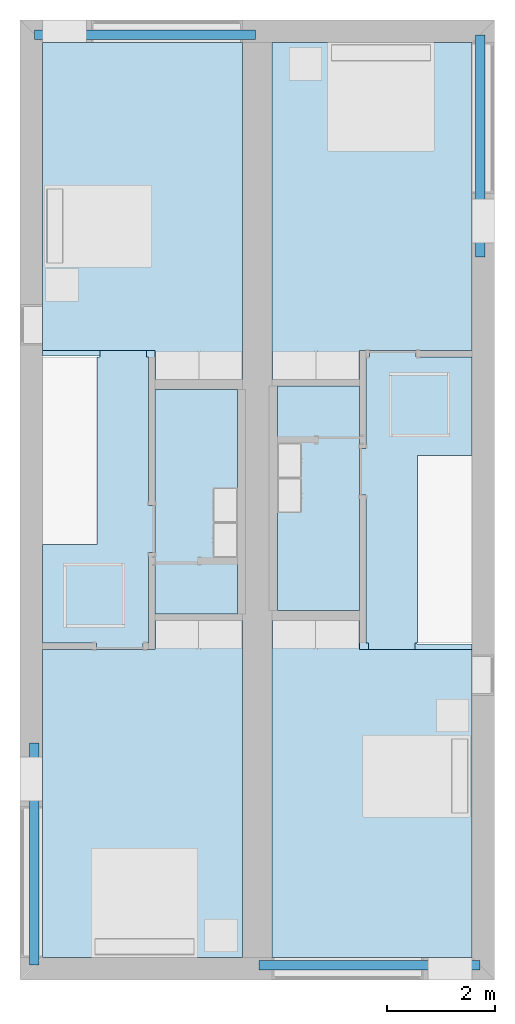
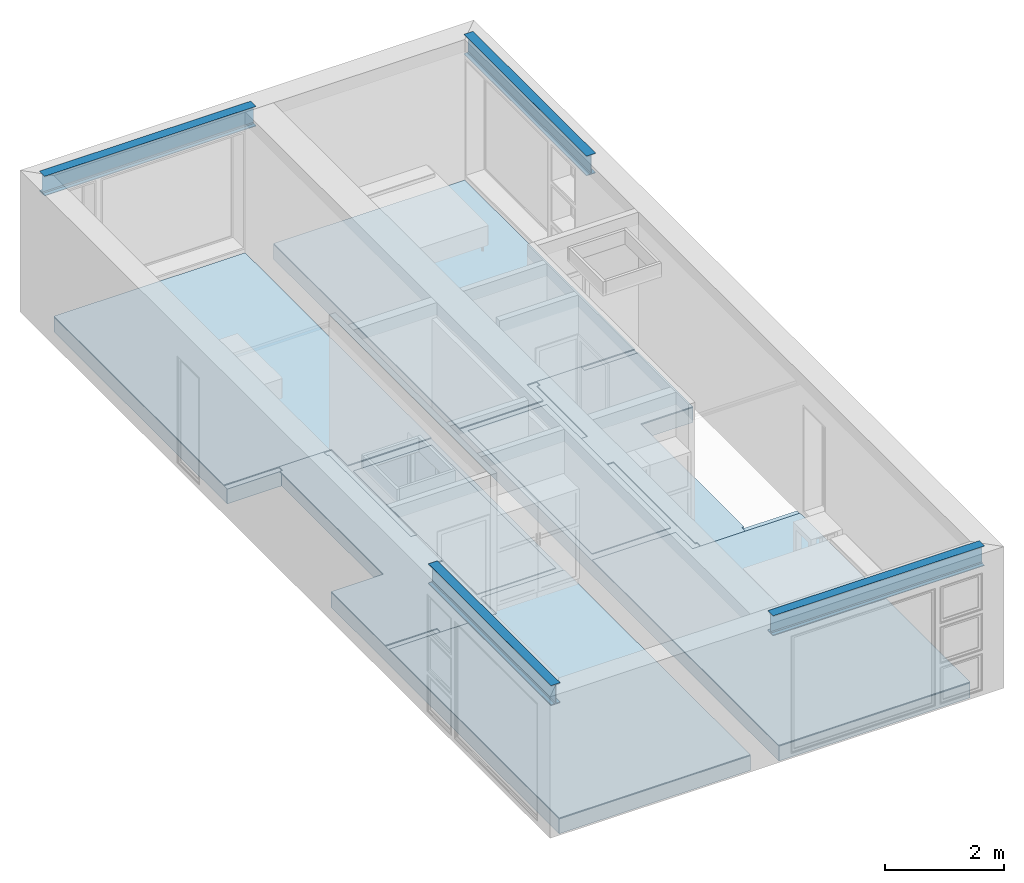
# One storey, part 1 of 16: 10 slabs, 4 beams.
"""IFC4 building model written with IfcOpenShell, lengths in metres."""

from ifc_helpers import new_model, entity, si_unit, converted_unit, frame, frame_2d, origin, place, context, project, spatial, polyline, circle_curve, parameter, trimmed, segment, composite_curve, rectangle, outline, extrude, material, layer, layer_set, layer_usage, element, save


model = new_model("IFC4")

# Units and contexts
model_context = context("Model", 3, precision=1e-09, world=origin())
plan_context = context("Plan", 3, precision=1e-09, world=origin())
ifc_project = project(units=[si_unit("LENGTHUNIT", "METRE"), si_unit("AREAUNIT", "SQUARE_METRE"), si_unit("VOLUMEUNIT", "CUBIC_METRE"), converted_unit("PLANEANGLEUNIT", "DEGREE", entity("IfcRatioMeasure", 0.01745329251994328), si_unit("PLANEANGLEUNIT", "RADIAN"), dimensions=[0, 0, 0, 0, 0, 0, 0]), si_unit("TIMEUNIT", "SECOND")], contexts=[model_context, plan_context])

# Site, building, storey
site_placement = place(None, origin())
site = spatial("IfcSite", under=ifc_project, at=site_placement, Name="Default", CompositionType="ELEMENT")
building_placement = place(site_placement, origin())
building = spatial("IfcBuilding", under=site, at=building_placement, CompositionType="ELEMENT")
storey_placement = place(building_placement, frame((0.0, 0.0, 3.100000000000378)))
storey = spatial("IfcBuildingStorey", under=building, at=storey_placement, Name="Level 2", CompositionType="ELEMENT", Elevation=3.100000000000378)

# Beams
ifc_material_1 = material(Name="Metal - Steel - 345 MPa")
beam_1_placement = place(storey_placement, frame((0.2666128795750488, -13.40172007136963, 2.89999999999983), z_axis=(0.0, 0.0, 1.0), x_axis=(-1.0, 0.0, 0.0)))
element("IfcBeam", 1, at=beam_1_placement, inside=storey, material=ifc_material_1, Name="M_W-Wide Flange:W410X60:W410X60", ObjectType="M_W-Wide Flange:W410X60", context=model_context, shape_type="SweptSolid", body=[
    extrude(outline(composite_curve([segment(polyline([(0.1906999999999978, -0.08900000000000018), (0.2034999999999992, -0.08900000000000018)]), True, "CONTINUOUS"), segment(polyline([(0.2034999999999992, -0.08900000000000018), (0.2034999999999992, 0.08900000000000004)]), True, "CONTINUOUS"), segment(polyline([(0.2034999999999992, 0.08900000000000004), (0.1906999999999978, 0.08900000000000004)]), True, "CONTINUOUS"), segment(polyline([(0.1906999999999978, 0.08900000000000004), (0.1906999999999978, 0.02104999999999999)]), True, "CONTINUOUS"), segment(trimmed(circle_curve(frame_2d((0.1734999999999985, 0.02104999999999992), x_axis=(1.0, 0.0)), 0.0172), [parameter(92.33515524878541)], [parameter(92.33515524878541)], True, "PARAMETER"), False, "CONTINUOUS"), segment(polyline([(0.1734999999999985, 0.003849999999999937), (-0.1735000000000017, 0.003849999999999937)]), True, "CONTINUOUS"), segment(trimmed(circle_curve(frame_2d((-0.1735000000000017, 0.02104999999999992), x_axis=(0.0, -1.0)), 0.0172), [parameter(92.33515524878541)], [parameter(92.33515524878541)], True, "PARAMETER"), False, "CONTINUOUS"), segment(polyline([(-0.1907000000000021, 0.02104999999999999), (-0.1907000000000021, 0.08900000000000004)]), True, "CONTINUOUS"), segment(polyline([(-0.1907000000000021, 0.08900000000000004), (-0.2035000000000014, 0.08900000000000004)]), True, "CONTINUOUS"), segment(polyline([(-0.2035000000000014, 0.08900000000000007), (-0.2035000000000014, -0.08899999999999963)]), True, "CONTINUOUS"), segment(polyline([(-0.2035000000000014, -0.08899999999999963), (-0.1907000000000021, -0.08899999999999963)]), True, "CONTINUOUS"), segment(polyline([(-0.1907000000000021, -0.08899999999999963), (-0.1907000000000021, -0.02105000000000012)]), True, "CONTINUOUS"), segment(trimmed(circle_curve(frame_2d((-0.1735000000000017, -0.02105000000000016), x_axis=(-1.0, 0.0)), 0.0172), [parameter(92.33515524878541)], [parameter(92.33515524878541)], True, "PARAMETER"), False, "CONTINUOUS"), segment(polyline([(-0.1735000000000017, -0.00385000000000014), (0.1734999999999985, -0.00385000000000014)]), True, "CONTINUOUS"), segment(trimmed(circle_curve(frame_2d((0.1734999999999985, -0.02105000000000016), x_axis=(0.0, 1.0)), 0.0172), [parameter(92.33515524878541)], [parameter(92.33515524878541)], True, "PARAMETER"), False, "CONTINUOUS"), segment(polyline([(0.1906999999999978, -0.02105000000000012), (0.1906999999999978, -0.08900000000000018)]), True, "CONTINUOUS")], self_intersect=False)), frame((0.0, 4.121279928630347, -0.2035000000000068), z_axis=(0.0, -1.0, 0.0), x_axis=(0.0, 0.0, -1.0)), (0.0, 0.0, 1.0), 4.121279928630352),
])
beam_2_placement = place(storey_placement, frame((4.428954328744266, -17.52876686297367, 2.89999999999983), z_axis=(0.0, 0.0, 1.0), x_axis=(0.0, -1.0, 0.0)))
element("IfcBeam", 2, at=beam_2_placement, inside=storey, material=ifc_material_1, Name="M_W-Wide Flange:W410X60:W410X60", ObjectType="M_W-Wide Flange:W410X60", context=model_context, shape_type="SweptSolid", body=[
    extrude(outline(composite_curve([segment(polyline([(-0.08900000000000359, -0.1907), (-0.08900000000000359, -0.2035000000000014)]), True, "CONTINUOUS"), segment(polyline([(-0.08900000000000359, -0.2035000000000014), (0.0889999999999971, -0.2035000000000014)]), True, "CONTINUOUS"), segment(polyline([(0.0889999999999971, -0.2035000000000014), (0.0889999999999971, -0.1907)]), True, "CONTINUOUS"), segment(polyline([(0.0889999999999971, -0.1907), (0.02104999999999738, -0.1907)]), True, "CONTINUOUS"), segment(trimmed(circle_curve(frame_2d((0.02104999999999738, -0.1735000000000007), x_axis=(0.0, -1.0)), 0.0172), [parameter(92.33515524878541)], [parameter(92.33515524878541)], True, "PARAMETER"), False, "CONTINUOUS"), segment(polyline([(0.003849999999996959, -0.1735000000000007), (0.003849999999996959, 0.1734999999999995)]), True, "CONTINUOUS"), segment(trimmed(circle_curve(frame_2d((0.02104999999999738, 0.1734999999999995), x_axis=(-1.0, 0.0)), 0.0172), [parameter(92.33515524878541)], [parameter(92.33515524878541)], True, "PARAMETER"), False, "CONTINUOUS"), segment(polyline([(0.02104999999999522, 0.1907), (0.0889999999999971, 0.1907)]), True, "CONTINUOUS"), segment(polyline([(0.0889999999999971, 0.1907), (0.0889999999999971, 0.2034999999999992)]), True, "CONTINUOUS"), segment(polyline([(0.0889999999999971, 0.2034999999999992), (-0.08900000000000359, 0.2034999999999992)]), True, "CONTINUOUS"), segment(polyline([(-0.08900000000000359, 0.2034999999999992), (-0.08900000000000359, 0.1907)]), True, "CONTINUOUS"), segment(polyline([(-0.08900000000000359, 0.1907), (-0.02105000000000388, 0.1907)]), True, "CONTINUOUS"), segment(trimmed(circle_curve(frame_2d((-0.02105000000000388, 0.1734999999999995), x_axis=(0.0, 1.0)), 0.0172), [parameter(92.33515524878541)], [parameter(92.33515524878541)], True, "PARAMETER"), False, "CONTINUOUS"), segment(polyline([(-0.003850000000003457, 0.1734999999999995), (-0.003850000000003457, -0.1735000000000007)]), True, "CONTINUOUS"), segment(trimmed(circle_curve(frame_2d((-0.02105000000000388, -0.1735000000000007), x_axis=(1.0, 0.0)), 0.0172), [parameter(92.33515524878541)], [parameter(92.33515524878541)], True, "PARAMETER"), False, "CONTINUOUS"), segment(polyline([(-0.02105000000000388, -0.1907), (-0.08900000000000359, -0.1907)]), True, "CONTINUOUS")], self_intersect=False)), frame((0.0, 0.0, -0.2035000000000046), z_axis=(0.0, -1.0, 0.0), x_axis=(1.0, 0.0, 0.0)), (0.0, 0.0, -1.0), 4.100000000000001),
])
beam_3_placement = place(storey_placement, frame((8.533387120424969, -4.398279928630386, 2.89999999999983)))
element("IfcBeam", 3, at=beam_3_placement, inside=storey, material=ifc_material_1, Name="M_W-Wide Flange:W410X60:W410X60", ObjectType="M_W-Wide Flange:W410X60", context=model_context, shape_type="SweptSolid", body=[
    extrude(outline(composite_curve([segment(polyline([(-0.08900000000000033, -0.1907), (-0.08900000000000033, -0.2035000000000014)]), True, "CONTINUOUS"), segment(polyline([(-0.08900000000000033, -0.2035000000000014), (0.08899999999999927, -0.2035000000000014)]), True, "CONTINUOUS"), segment(polyline([(0.08899999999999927, -0.2035000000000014), (0.08899999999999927, -0.1907)]), True, "CONTINUOUS"), segment(polyline([(0.08899999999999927, -0.1907), (0.02104999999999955, -0.1907)]), True, "CONTINUOUS"), segment(trimmed(circle_curve(frame_2d((0.02104999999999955, -0.1735000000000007), x_axis=(0.0, -1.0)), 0.0172), [parameter(92.33515524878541)], [parameter(92.33515524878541)], True, "PARAMETER"), False, "CONTINUOUS"), segment(polyline([(0.003849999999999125, -0.1735000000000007), (0.003849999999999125, 0.1734999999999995)]), True, "CONTINUOUS"), segment(trimmed(circle_curve(frame_2d((0.02104999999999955, 0.1734999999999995), x_axis=(-1.0, 0.0)), 0.0172), [parameter(92.33515524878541)], [parameter(92.33515524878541)], True, "PARAMETER"), False, "CONTINUOUS"), segment(polyline([(0.02104999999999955, 0.1907), (0.08899999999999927, 0.1907)]), True, "CONTINUOUS"), segment(polyline([(0.08899999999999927, 0.1907), (0.08899999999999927, 0.2034999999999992)]), True, "CONTINUOUS"), segment(polyline([(0.08899999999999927, 0.2034999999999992), (-0.08900000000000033, 0.2034999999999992)]), True, "CONTINUOUS"), segment(polyline([(-0.08900000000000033, 0.2034999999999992), (-0.08900000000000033, 0.1907)]), True, "CONTINUOUS"), segment(polyline([(-0.08900000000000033, 0.1907), (-0.02105000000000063, 0.1907)]), True, "CONTINUOUS"), segment(trimmed(circle_curve(frame_2d((-0.02105000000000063, 0.1734999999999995), x_axis=(0.0, 1.0)), 0.0172), [parameter(92.33515524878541)], [parameter(92.33515524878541)], True, "PARAMETER"), False, "CONTINUOUS"), segment(polyline([(-0.003850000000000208, 0.1734999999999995), (-0.003850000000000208, -0.1735000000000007)]), True, "CONTINUOUS"), segment(trimmed(circle_curve(frame_2d((-0.02105000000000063, -0.1735000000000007), x_axis=(1.0, 0.0)), 0.0172), [parameter(92.33515524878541)], [parameter(92.33515524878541)], True, "PARAMETER"), False, "CONTINUOUS"), segment(polyline([(-0.02105000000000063, -0.1907), (-0.08900000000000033, -0.1907)]), True, "CONTINUOUS")], self_intersect=False)), frame((0.0, 0.0, -0.2035000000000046), z_axis=(0.0, -1.0, 0.0), x_axis=(1.0, 0.0, 0.0)), (0.0, 0.0, -1.0), 4.121279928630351),
])
beam_4_placement = place(storey_placement, frame((4.371045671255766, -0.2712331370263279, 2.89999999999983), z_axis=(0.0, 0.0, 1.0), x_axis=(0.0, 1.0, 0.0)))
element("IfcBeam", 4, at=beam_4_placement, inside=storey, material=ifc_material_1, Name="M_W-Wide Flange:W410X60:W410X60", ObjectType="M_W-Wide Flange:W410X60", context=model_context, shape_type="SweptSolid", body=[
    extrude(outline(composite_curve([segment(polyline([(0.1906999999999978, -0.08900000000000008), (0.2034999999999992, -0.08900000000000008)]), True, "CONTINUOUS"), segment(polyline([(0.2034999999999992, -0.08900000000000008), (0.2034999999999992, 0.08900000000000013)]), True, "CONTINUOUS"), segment(polyline([(0.2034999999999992, 0.08900000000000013), (0.1906999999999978, 0.08900000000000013)]), True, "CONTINUOUS"), segment(polyline([(0.1906999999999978, 0.08900000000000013), (0.1906999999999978, 0.02105000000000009)]), True, "CONTINUOUS"), segment(trimmed(circle_curve(frame_2d((0.1734999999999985, 0.02105000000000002), x_axis=(1.0, 0.0)), 0.0172), [parameter(92.33515524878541)], [parameter(92.33515524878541)], True, "PARAMETER"), False, "CONTINUOUS"), segment(polyline([(0.1734999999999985, 0.003850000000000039), (-0.1735000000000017, 0.003850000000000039)]), True, "CONTINUOUS"), segment(trimmed(circle_curve(frame_2d((-0.1735000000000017, 0.02105000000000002), x_axis=(0.0, -1.0)), 0.0172), [parameter(92.33515524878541)], [parameter(92.33515524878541)], True, "PARAMETER"), False, "CONTINUOUS"), segment(polyline([(-0.1907000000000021, 0.02105000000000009), (-0.1907000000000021, 0.08900000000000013)]), True, "CONTINUOUS"), segment(polyline([(-0.1907000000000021, 0.08900000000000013), (-0.2035000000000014, 0.08900000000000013)]), True, "CONTINUOUS"), segment(polyline([(-0.2035000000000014, 0.08900000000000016), (-0.2035000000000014, -0.08899999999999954)]), True, "CONTINUOUS"), segment(polyline([(-0.2035000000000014, -0.08899999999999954), (-0.1907000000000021, -0.08899999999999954)]), True, "CONTINUOUS"), segment(polyline([(-0.1907000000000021, -0.08899999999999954), (-0.1907000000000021, -0.02105000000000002)]), True, "CONTINUOUS"), segment(trimmed(circle_curve(frame_2d((-0.1735000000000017, -0.02105000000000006), x_axis=(-1.0, 0.0)), 0.0172), [parameter(92.33515524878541)], [parameter(92.33515524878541)], True, "PARAMETER"), False, "CONTINUOUS"), segment(polyline([(-0.1735000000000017, -0.003850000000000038), (0.1734999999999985, -0.003850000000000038)]), True, "CONTINUOUS"), segment(trimmed(circle_curve(frame_2d((0.1734999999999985, -0.02105000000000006), x_axis=(0.0, 1.0)), 0.0172), [parameter(92.33515524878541)], [parameter(92.33515524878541)], True, "PARAMETER"), False, "CONTINUOUS"), segment(polyline([(0.1906999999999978, -0.02105000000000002), (0.1906999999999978, -0.08900000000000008)]), True, "CONTINUOUS")], self_intersect=False)), frame((0.0, 4.1, -0.2035000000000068), z_axis=(0.0, -1.0, 0.0), x_axis=(0.0, 0.0, -1.0)), (0.0, 0.0, 1.0), 4.100000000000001),
])

# Slabs
ifc_material_2 = material(Name="Wood - Sheathing - plywood")
ifc_layer_1 = layer(ifc_material_2, 0.019)
ifc_material_3 = material(Name="Wood - Dimensional Lumber")
ifc_layer_2 = layer(ifc_material_3, 0.286)
ifc_layer_set_1 = layer_set([ifc_layer_1, ifc_layer_2], Name="Floor:Residential - Wood Joist with Subflooring")
ifc_layer_usage_1 = layer_usage(ifc_layer_set_1, "AXIS3", "POSITIVE", 0.0)
slab_1_placement = place(storey_placement, frame((0.4169999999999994, -17.38299999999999, -0.3050000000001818)))
element("IfcSlab", 5, at=slab_1_placement, inside=storey, material=ifc_layer_usage_1, Name="Floor:Residential - Wood Joist with Subflooring", ObjectType="Floor:Residential - Wood Joist with Subflooring", PredefinedType="FLOOR", context=model_context, shape_type="SweptSolid", body=[
    extrude(outline(polyline([(-1.854000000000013, 8.48299999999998), (-1.853999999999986, -8.482999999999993), (1.853999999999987, -8.482999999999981), (1.853999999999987, -0.8250000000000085), (0.799599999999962, -0.8250000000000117), (0.7995999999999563, 2.665999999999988), (1.853999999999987, 2.665999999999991), (1.853999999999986, 8.482999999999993), (-1.854000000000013, 8.48299999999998)])), frame((1.853999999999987, 8.482999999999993, 0.305), z_axis=(0.0, 0.0, -1.0), x_axis=(-1.0, 0.0, 0.0)), (0.0, 0.0, 1.0), 0.305),
])
ifc_material_4 = material(Name="Ceramic Tile")
ifc_layer_3 = layer(ifc_material_4, 0.01)
ifc_material_5 = material(Name="Masonry - Grout")
ifc_layer_4 = layer(ifc_material_5, 0.003)
ifc_layer_set_2 = layer_set([ifc_layer_3, ifc_layer_4], Name="Floor:Finish Floor - Ceramic Tile")
ifc_layer_usage_2 = layer_usage(ifc_layer_set_2, "AXIS3", "POSITIVE", 0.0)
slab_2_placement = place(storey_placement, frame((2.505999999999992, -11.01, 0.0)))
element("IfcSlab", 6, at=slab_2_placement, inside=storey, material=ifc_layer_usage_2, Name="Floor:Finish Floor - Ceramic Tile", ObjectType="Floor:Finish Floor - Ceramic Tile", PredefinedType="FLOOR", context=model_context, shape_type="SweptSolid", body=[
    extrude(rectangle(XDim=4.16, YDim=1.523999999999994, at=frame_2d((0.0, 0.0), x_axis=(0.0, -1.0))), frame((0.7619999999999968, 2.080000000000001, 0.01299999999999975), z_axis=(0.0, 0.0, -1.0), x_axis=(-1.0, 0.0, 0.0)), (0.0, 0.0, 1.0), 0.01299999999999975),
])
ifc_material_6 = material(Name="Wood - Flooring")
ifc_layer_5 = layer(ifc_material_6, 0.016)
ifc_material_7 = material(Name="Insulation / Thermal Barriers - Semi-rigid insulation")
ifc_layer_6 = layer(ifc_material_7, 0.003)
ifc_layer_set_3 = layer_set([ifc_layer_5, ifc_layer_6], Name="Floor:Finish Floor - Wood")
ifc_layer_usage_3 = layer_usage(ifc_layer_set_3, "AXIS3", "POSITIVE", 0.0)
slab_3_placement = place(storey_placement, frame((0.4169999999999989, -6.666000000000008, 0.0)))
element("IfcSlab", 7, at=slab_3_placement, inside=storey, material=ifc_layer_usage_3, Name="Floor:Finish Floor - Wood", ObjectType="Floor:Finish Floor - Wood", PredefinedType="FLOOR", context=model_context, shape_type="SweptSolid", body=[
    extrude(outline(polyline([(1.853999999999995, 3.124500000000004), (-1.854000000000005, 3.124499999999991), (-1.853999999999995, -3.124500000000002), (-0.235000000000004, -3.124499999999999), (-0.235000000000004, -2.584499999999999), (1.853999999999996, -2.584499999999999), (1.853999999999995, 3.124500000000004)])), frame((1.853999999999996, 3.124500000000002, 0.01900000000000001), z_axis=(0.0, 0.0, -1.0), x_axis=(-1.0, 0.0, 0.0)), (0.0, 0.0, 1.0), 0.01900000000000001),
])
ifc_layer_usage_4 = layer_usage(ifc_layer_set_3, "AXIS3", "POSITIVE", 0.0)
slab_4_placement = place(storey_placement, frame((0.4169999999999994, -17.38299999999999, 0.0)))
element("IfcSlab", 8, at=slab_4_placement, inside=storey, material=ifc_layer_usage_4, Name="Floor:Finish Floor - Wood", ObjectType="Floor:Finish Floor - Wood", PredefinedType="FLOOR", context=model_context, shape_type="SweptSolid", body=[
    extrude(outline(polyline([(-1.853999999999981, -3.124499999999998), (1.853999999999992, -3.124499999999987), (1.853999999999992, 2.584499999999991), (-0.2350000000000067, 2.584499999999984), (-0.2350000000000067, 3.124499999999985), (-1.854000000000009, 3.124499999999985), (-1.853999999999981, -3.124499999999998)])), frame((1.853999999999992, 3.124499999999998, 0.01900000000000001), z_axis=(0.0, 0.0, -1.0), x_axis=(-1.0, 0.0, 0.0)), (0.0, 0.0, 1.0), 0.01900000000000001),
])
ifc_layer_usage_5 = layer_usage(ifc_layer_set_1, "AXIS3", "POSITIVE", 0.0)
slab_5_placement = place(storey_placement, frame((4.674999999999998, -17.383, -0.3050000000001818)))
element("IfcSlab", 9, at=slab_5_placement, inside=storey, material=ifc_layer_usage_5, Name="Floor:Residential - Wood Joist with Subflooring", ObjectType="Floor:Residential - Wood Joist with Subflooring", PredefinedType="FLOOR", context=model_context, shape_type="SweptSolid", body=[
    extrude(outline(polyline([(-1.854000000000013, 8.48299999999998), (-1.854000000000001, 0.8250000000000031), (-0.829600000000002, 0.8250000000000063), (-0.8295999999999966, -2.665999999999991), (-1.853999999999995, -2.665999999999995), (-1.853999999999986, -8.482999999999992), (1.853999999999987, -8.482999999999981), (1.853999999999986, 8.482999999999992), (-1.854000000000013, 8.48299999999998)])), frame((1.853999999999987, 8.482999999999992, 0.305), z_axis=(0.0, 0.0, -1.0), x_axis=(-1.0, 0.0, 0.0)), (0.0, 0.0, 1.0), 0.305),
])
ifc_layer_usage_6 = layer_usage(ifc_layer_set_2, "AXIS3", "POSITIVE", 0.0)
slab_6_placement = place(storey_placement, frame((4.769999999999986, -10.95000000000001, 0.0)))
element("IfcSlab", 10, at=slab_6_placement, inside=storey, material=ifc_layer_usage_6, Name="Floor:Finish Floor - Ceramic Tile", ObjectType="Floor:Finish Floor - Ceramic Tile", PredefinedType="FLOOR", context=model_context, shape_type="SweptSolid", body=[
    extrude(rectangle(XDim=4.160000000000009, YDim=1.524000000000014, at=frame_2d((0.0, 0.0), x_axis=(0.0, -1.0))), frame((0.7620000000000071, 2.080000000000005, 0.01299999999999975), z_axis=(0.0, 0.0, -1.0), x_axis=(-1.0, 0.0, 0.0)), (0.0, 0.0, 1.0), 0.01299999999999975),
])
ifc_layer_usage_7 = layer_usage(ifc_layer_set_3, "AXIS3", "POSITIVE", 0.0)
slab_7_placement = place(storey_placement, frame((0.4169999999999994, -11.674, 0.0)))
element("IfcSlab", 11, at=slab_7_placement, inside=storey, material=ifc_layer_usage_7, Name="Floor:Finish Floor - Wood", ObjectType="Floor:Finish Floor - Wood", PredefinedType="FLOOR", context=model_context, shape_type="SweptSolid", body=[
    extrude(outline(polyline([(-0.9205000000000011, -0.1060511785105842), (-1.0445, -0.1060511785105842), (-1.0445, -0.9700511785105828), (-0.9205000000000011, -0.9700511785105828), (-0.9205000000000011, -2.649999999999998), (-0.8204999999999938, -2.649999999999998), (-0.8204999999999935, -2.774), (0.04350000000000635, -2.773999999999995), (0.04350000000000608, -2.649999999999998), (1.0445, -2.649999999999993), (1.0445, -0.8249999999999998), (0.03009999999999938, -0.825000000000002), (0.03009999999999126, 2.649999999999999), (-0.02179999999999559, 2.649999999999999), (-0.02179999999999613, 2.773999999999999), (-0.8857999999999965, 2.773999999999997), (-0.885799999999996, 2.650000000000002), (-0.9205000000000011, 2.650000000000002), (-0.9205000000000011, -0.1060511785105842)])), frame((1.0445, 2.774, 0.01900000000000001), z_axis=(0.0, 0.0, -1.0), x_axis=(-1.0, 0.0, 0.0)), (0.0, 0.0, 1.0), 0.01900000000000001),
])
ifc_layer_usage_8 = layer_usage(ifc_layer_set_3, "AXIS3", "POSITIVE", 0.0)
slab_8_placement = place(storey_placement, frame((6.294000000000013, -11.67400000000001, 0.0)))
element("IfcSlab", 12, at=slab_8_placement, inside=storey, material=ifc_layer_usage_8, Name="Floor:Finish Floor - Wood", ObjectType="Floor:Finish Floor - Wood", PredefinedType="FLOOR", context=model_context, shape_type="SweptSolid", body=[
    extrude(outline(polyline([(0.9205000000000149, 0.09061576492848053), (1.044499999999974, 0.09061576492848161), (1.044499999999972, 0.9546157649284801), (0.9204999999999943, 0.9546157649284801), (0.9204999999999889, 2.650000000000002), (0.8604999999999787, 2.650000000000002), (0.8604999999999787, 2.774000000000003), (-0.003500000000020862, 2.773999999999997), (-0.003500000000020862, 2.649999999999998), (-1.044499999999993, 2.649999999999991), (-1.044499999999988, 0.8249999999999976), (-0.03010000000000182, 0.8250000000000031), (-0.03009999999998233, -2.649999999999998), (0.01720000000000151, -2.649999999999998), (0.01720000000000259, -2.773999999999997), (0.8812000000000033, -2.773999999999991), (0.8812000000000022, -2.649999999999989), (0.9205000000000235, -2.649999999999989), (0.9205000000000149, 0.09061576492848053)])), frame((1.044499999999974, 2.773999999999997, 0.01900000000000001), z_axis=(0.0, 0.0, -1.0), x_axis=(-1.0, 0.0, 0.0)), (0.0, 0.0, 1.0), 0.01900000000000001),
])
ifc_layer_usage_9 = layer_usage(ifc_layer_set_3, "AXIS3", "POSITIVE", 0.0)
slab_9_placement = place(storey_placement, frame((4.674999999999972, -17.383, 0.0)))
element("IfcSlab", 13, at=slab_9_placement, inside=storey, material=ifc_layer_usage_9, Name="Floor:Finish Floor - Wood", ObjectType="Floor:Finish Floor - Wood", PredefinedType="FLOOR", context=model_context, shape_type="SweptSolid", body=[
    extrude(outline(polyline([(-1.854000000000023, 2.576499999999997), (-1.853999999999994, -3.132499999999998), (1.854000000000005, -3.132499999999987), (1.853999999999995, 3.132499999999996), (0.2349999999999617, 3.132499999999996), (0.2349999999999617, 2.576499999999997), (-1.854000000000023, 2.576499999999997)])), frame((1.854000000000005, 3.132499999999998, 0.01900000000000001), z_axis=(0.0, 0.0, -1.0), x_axis=(-1.0, 0.0, 0.0)), (0.0, 0.0, 1.0), 0.01900000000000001),
])
ifc_layer_usage_10 = layer_usage(ifc_layer_set_3, "AXIS3", "POSITIVE", 0.0)
slab_10_placement = place(storey_placement, frame((4.675, -6.666000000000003, 0.0)))
element("IfcSlab", 14, at=slab_10_placement, inside=storey, material=ifc_layer_usage_10, Name="Floor:Finish Floor - Wood", ObjectType="Floor:Finish Floor - Wood", PredefinedType="FLOOR", context=model_context, shape_type="SweptSolid", body=[
    extrude(outline(polyline([(-1.854000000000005, 3.124499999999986), (-1.853999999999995, -2.584499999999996), (0.2349999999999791, -2.58449999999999), (0.2349999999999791, -3.124499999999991), (1.853999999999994, -3.124499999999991), (1.853999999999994, 3.124499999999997), (-1.854000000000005, 3.124499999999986)])), frame((1.853999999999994, 3.124499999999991, 0.01900000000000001), z_axis=(0.0, 0.0, -1.0), x_axis=(-1.0, 0.0, 0.0)), (0.0, 0.0, 1.0), 0.01900000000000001),
])

save(model, "model.ifc")
